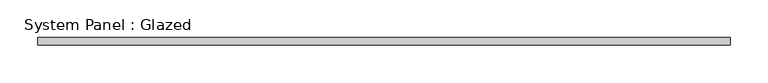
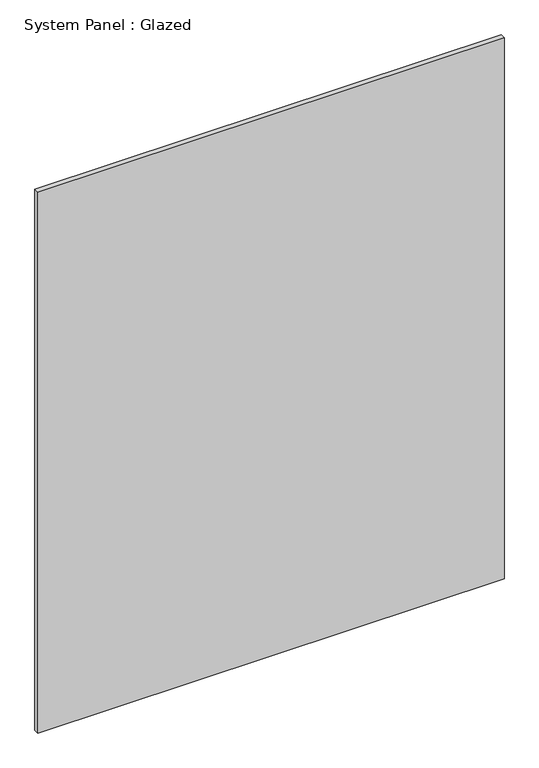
"""IFC4 building model written with IfcOpenShell, lengths in millimetres: plate geometry, System Panel : Glazed."""

from ifc_helpers import new_model, si_unit, origin, origin_with_axes, place, context, project, spatial, polyline, outline, extrude, source, transform, mapped, element, save


def system_panel_glazed_ee1e8c74(model_context):
    return source(origin(), model_context, "Body", "SweptSolid", [
        extrude(outline(polyline([(458.5000001, -5.0), (-458.5000001, -5.0), (-458.5000001, 5.0), (458.5000001, 5.0), (458.5000001, -5.0)])), origin_with_axes(), (0.0, 0.0, 1.0), 1124.6707214),
    ])


if __name__ == "__main__":
    model = new_model("IFC4")
    model_context = context("Model", 3, world=origin())
    ifc_project = project(units=[si_unit("LENGTHUNIT", "METRE", prefix="MILLI")], contexts=[model_context])
    site = spatial("IfcSite", under=ifc_project)
    building = spatial("IfcBuilding", under=site)
    placement = place(None, origin())
    system_panel_glazed_shape = system_panel_glazed_ee1e8c74(model_context)
    element("IfcPlate", 1, ObjectType="System Panel : Glazed", at=placement, inside=building, context=model_context, shape_type="MappedRepresentation", body=[
        mapped(system_panel_glazed_shape, transform((0.0, 0.0, 0.0), x_axis=(1.0, 0.0, 0.0), y_axis=(0.0, 1.0, 0.0), z_axis=(0.0, 0.0, 1.0))),
    ])
    save(model, "model.ifc")
